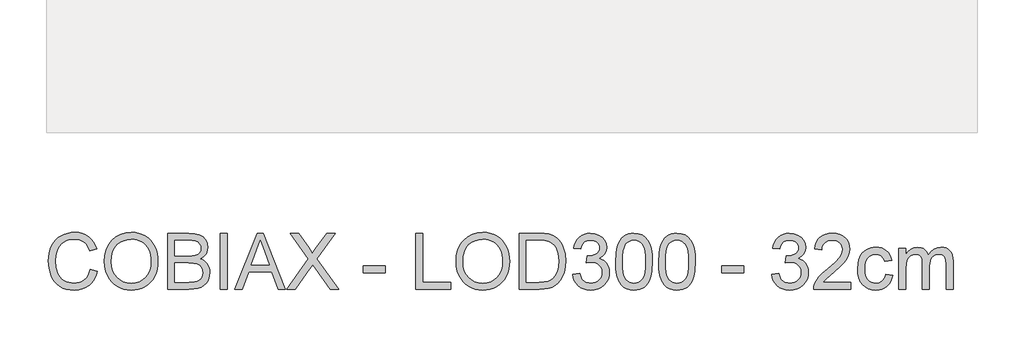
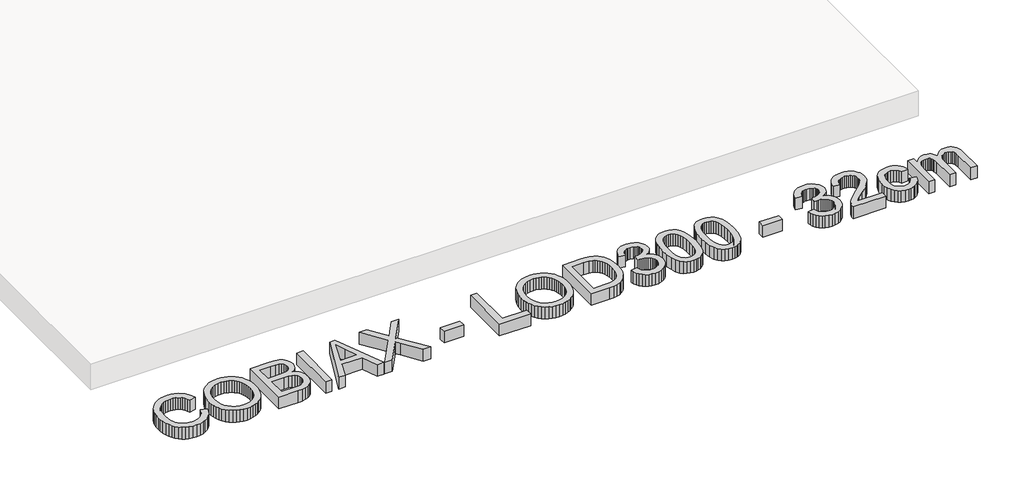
# One storey, part 4 of 18: 1 proxy.
"""IFC4 building model written with IfcOpenShell, lengths in millimetres."""

from ifc_helpers import new_model, si_unit, origin, origin_with_axes, place, context, project, spatial, polyline, outline, extrude, element, save

model = new_model("IFC4")

# Units and contexts
model_context = context("Model", 3, world=origin())
ifc_project = project(units=[si_unit("LENGTHUNIT", "METRE", prefix="MILLI")], contexts=[model_context])

# Site, building, storey
site = spatial("IfcSite", under=ifc_project)
building = spatial("IfcBuilding", under=site)
storey = spatial("IfcBuildingStorey", under=building, Name="COBIAX Slabs", Elevation=0.0)

# Proxy
placement = place(None, origin())
element("IfcBuildingElementProxy", 1, Name="600mm Arial", ObjectType="600mm Arial", at=placement, inside=storey, context=model_context, shape_type="SweptSolid", body=[
    extrude(outline(polyline([(-20201.7846047, -22740.3003464), (-20126.4423721, -22759.7245158), (-20141.35079, -22806.5788864), (-20161.2072206, -22847.5195539), (-20186.0116642, -22882.5465184), (-20215.7641205, -22911.6597798), (-20249.7932051, -22934.5466384), (-20287.4275332, -22950.8943946), (-20328.6671048, -22960.7030482), (-20373.5119201, -22963.9725995), (-20419.4557827, -22961.4985931), (-20460.902288, -22954.0765738), (-20497.8514359, -22941.7065417), (-20530.3032264, -22924.3884968), (-20558.7037164, -22902.3799564), (-20583.4989629, -22875.938438), (-20604.6889658, -22845.0639416), (-20622.2737252, -22809.7564671), (-20636.0830956, -22771.5427249), (-20645.9469316, -22731.9494251), (-20651.8652332, -22690.9765679), (-20653.8380004, -22648.6241532), (-20651.6077158, -22603.1815298), (-20644.916862, -22560.7371446), (-20633.765439, -22521.2909976), (-20618.1534469, -22484.843089), (-20598.4303734, -22451.9958253), (-20574.9457065, -22423.3516135), (-20547.6994462, -22398.9104534), (-20516.6915926, -22378.6723452), (-20482.9752077, -22362.8028356), (-20447.6033539, -22351.4674716), (-20410.5760311, -22344.6662532), (-20371.8932393, -22342.3991804), (-20328.8004621, -22345.3330393), (-20289.2853373, -22354.1346161), (-20253.3478649, -22368.8039106), (-20220.9880449, -22389.340923), (-20192.7393062, -22415.2030273), (-20169.1350776, -22445.8475975), (-20150.1753593, -22481.2746336), (-20135.8601512, -22521.4841357), (-20211.2023838, -22539.436777), (-20223.0665781, -22509.8084809), (-20237.3220054, -22484.4936011), (-20253.9686657, -22463.4921377), (-20273.006559, -22446.8040907), (-20294.5460498, -22434.0891692), (-20318.6975028, -22425.0070824), (-20345.4609179, -22419.5578304), (-20374.8362952, -22417.741413), (-20408.6354535, -22419.755567), (-20439.5467382, -22425.7980287), (-20467.5701492, -22435.8687984), (-20492.7056865, -22449.9678758), (-20514.6360519, -22467.4606647), (-20533.0439473, -22487.7125685), (-20547.9293725, -22510.7235873), (-20559.2923276, -22536.4937211), (-20573.6949077, -22591.6392322), (-20578.4957678, -22648.4770004), (-20572.8119909, -22718.0802739), (-20565.7072699, -22749.3502435), (-20555.7606605, -22778.2657683), (-20542.8112142, -22804.2520328), (-20526.6979829, -22826.7342212), (-20507.4209663, -22845.7123336), (-20484.9801646, -22861.18637), (-20460.4654281, -22873.1931186), (-20434.9666074, -22881.7693677), (-20408.4837022, -22886.9151171), (-20381.0167128, -22888.6303669), (-20348.2614196, -22886.2943162), (-20318.1272857, -22879.2861642), (-20290.614311, -22867.6059108), (-20265.7224955, -22851.2535562), (-20244.0404504, -22830.3026765), (-20226.1567869, -22804.8268484), (-20212.071505, -22774.8260717), (-20201.7846047, -22740.3003464)])), origin_with_axes(), (0.0, 0.0, 1.0), 150.0),
    extrude(outline(polyline([(-20051.1001395, -22661.1321411), (-20046.0785503, -22590.4344186), (-20031.0137825, -22527.8484942), (-20005.9058364, -22473.3743678), (-19989.5856714, -22449.1792288), (-19970.7547117, -22427.0120393), (-19927.6665331, -22389.9939136), (-19878.7474247, -22363.5523952), (-19823.9973868, -22347.6874841), (-19763.4164193, -22342.3991804), (-19722.8666263, -22344.8823839), (-19684.3585785, -22352.3319943), (-19647.8922757, -22364.7480116), (-19613.467718, -22382.1304359), (-19582.0505956, -22403.9550353), (-19554.6065988, -22429.6975779), (-19531.1357275, -22459.3580637), (-19511.6379818, -22492.9364929), (-19496.3156967, -22529.6695101), (-19485.3712073, -22568.7937603), (-19478.8045137, -22610.3092434), (-19476.6156158, -22654.2159595), (-19478.9194768, -22698.7020898), (-19485.8310598, -22740.778593), (-19497.3503648, -22780.4454691), (-19513.4773917, -22817.7027182), (-19533.8304631, -22851.5662559), (-19558.0279014, -22881.0519978), (-19586.0697064, -22906.1599439), (-19617.9558784, -22926.8900944), (-19652.4310198, -22943.1136904), (-19688.2397335, -22954.7019732), (-19725.3820195, -22961.6549429), (-19763.8578777, -22963.9725995), (-19805.1158434, -22961.4112211), (-19844.129729, -22953.7270859), (-19880.8995344, -22940.920194), (-19915.4252597, -22922.9905452), (-19946.8055939, -22900.632517), (-19974.1392261, -22874.5404865), (-19997.4261564, -22844.7144537), (-20016.6663847, -22811.1544187), (-20031.7311524, -22775.2077492), (-20042.4917008, -22738.2218131), (-20048.9480298, -22700.1966104), (-20051.1001395, -22661.1321411)]), holes=[polyline([(-19975.7579069, -22661.867905), (-19971.9917149, -22711.8170829), (-19960.6931392, -22756.1560604), (-19941.8621795, -22794.8848374), (-19915.4988361, -22828.0034141), (-19883.4517158, -22854.5277059), (-19847.5694257, -22873.4736287), (-19807.8519657, -22884.8411823), (-19764.299336, -22888.6303669), (-19720.0017453, -22884.8043941), (-19679.8152359, -22873.3264759), (-19643.7398077, -22854.1966121), (-19611.7754608, -22827.4148029), (-19585.6052554, -22793.5972505), (-19566.9122515, -22753.3601572), (-19555.6964492, -22706.7035232), (-19551.9578484, -22653.6273484), (-19553.5581351, -22619.1476084), (-19558.3589951, -22586.9303426), (-19566.3604285, -22556.9755512), (-19577.5624353, -22529.283234), (-19591.8408552, -22504.2166745), (-19609.0715282, -22482.1391563), (-19629.2544541, -22463.0506793), (-19652.3896331, -22446.9512435), (-19677.7596952, -22434.1719427), (-19704.6472705, -22425.0438706), (-19733.0523591, -22419.5670274), (-19762.9749609, -22417.741413), (-19805.0146759, -22421.2592846), (-19844.0193644, -22431.8128994), (-19879.9890265, -22449.4022573), (-19912.9236621, -22474.0273583), (-19940.4136442, -22506.874622), (-19960.0493457, -22549.1304676), (-19971.8307666, -22600.7948953), (-19975.7579069, -22661.867905)])]), origin_with_axes(), (0.0, 0.0, 1.0), 150.0),
    extrude(outline(polyline([(-19373.020046, -22954.5548204), (-19373.020046, -22351.8169595), (-19143.0202226, -22351.8169595), (-19079.7629135, -22356.2499375), (-19030.3747557, -22369.5488717), (-19010.2975958, -22379.6058457), (-18992.5196984, -22392.0448557), (-18977.0410634, -22406.8659016), (-18963.8616909, -22424.0689834), (-18945.8170791, -22461.7400997), (-18939.8022085, -22501.1770495), (-18944.8605859, -22537.4686084), (-18960.0357182, -22571.5896634), (-18985.43797, -22601.4432873), (-19021.1777058, -22624.9325527), (-18998.438, -22634.6262433), (-18978.4850002, -22647.2262016), (-18961.3187066, -22662.7324277), (-18946.9391192, -22681.1449216), (-18935.576164, -22701.9026632), (-18927.4597675, -22724.4446324), (-18922.5899296, -22748.7708294), (-18920.9666503, -22774.881254), (-18925.3996283, -22816.9117719), (-18938.6985625, -22855.8888693), (-18958.5457961, -22889.0350371), (-18982.6236727, -22913.5727661), (-19012.1094146, -22931.3414665), (-19048.1802442, -22944.1805481), (-19092.013384, -22951.9612523), (-19144.7860562, -22954.5548204), (-19373.020046, -22954.5548204)]), holes=[polyline([(-19297.6778134, -22596.6792155), (-19160.0899472, -22596.6792155), (-19111.9709822, -22595.0605347), (-19079.7445194, -22590.2044924), (-19051.6199409, -22579.0392738), (-19031.4048253, -22562.3190371), (-19019.2095371, -22540.3012997), (-19015.1444411, -22513.243579), (-19018.9336256, -22486.9768045), (-19030.3011793, -22464.0945444), (-19048.7320672, -22446.2338736), (-19073.7112547, -22435.0318668), (-19112.0445586, -22429.1273608), (-19170.5377958, -22427.1591921), (-19297.6778134, -22427.1591921), (-19297.6778134, -22596.6792155)]), polyline([(-19297.6778134, -22879.2125878), (-19143.1673754, -22879.2125878), (-19087.2493121, -22876.2695318), (-19061.2952374, -22869.7396264), (-19039.9396875, -22859.8619948), (-19022.5756574, -22845.7169321), (-19008.5961416, -22826.3847333), (-18999.3806976, -22802.729921), (-18996.3088829, -22775.617018), (-18999.9141265, -22744.1263192), (-19010.7298571, -22717.0502043), (-19029.6205976, -22695.8785955), (-19057.4508705, -22682.1014148), (-19096.8694263, -22674.5414398), (-19150.5250153, -22672.0214481), (-19297.6778134, -22672.0214481), (-19297.6778134, -22879.2125878)])]), origin_with_axes(), (0.0, 0.0, 1.0), 150.0),
    extrude(outline(polyline([(-18807.9533014, -22954.5548204), (-18807.9533014, -22351.8169595), (-18732.6110688, -22351.8169595), (-18732.6110688, -22954.5548204), (-18807.9533014, -22954.5548204)])), origin_with_axes(), (0.0, 0.0, 1.0), 150.0),
    extrude(outline(polyline([(-18652.1184882, -22954.5548204), (-18411.5236634, -22351.8169595), (-18347.3650434, -22351.8169595), (-18106.7702186, -22954.5548204), (-18186.3798823, -22954.5548204), (-18255.3945446, -22766.1992389), (-18503.641315, -22766.1992389), (-18572.5088245, -22954.5548204), (-18652.1184882, -22954.5548204)]), holes=[polyline([(-18475.9765889, -22690.8570063), (-18282.9121179, -22690.8570063), (-18337.2115004, -22542.6741386), (-18379.4443534, -22427.1591921), (-18416.9683169, -22529.7246924), (-18475.9765889, -22690.8570063)])]), origin_with_axes(), (0.0, 0.0, 1.0), 150.0),
    extrude(outline(polyline([(-18092.2020916, -22954.5548204), (-17859.8478234, -22626.1097751), (-18054.5309753, -22351.8169595), (-17964.1791572, -22351.8169595), (-17854.5503227, -22506.1802447), (-17828.3939128, -22545.2861008), (-17817.6149704, -22566.3657391), (-17774.3520477, -22505.1501751), (-17665.9004356, -22351.8169595), (-17574.2242424, -22351.8169595), (-17768.9073942, -22626.9926919), (-17536.5531261, -22954.5548204), (-17626.9049441, -22954.5548204), (-17781.7096876, -22736.1800681), (-17813.9361504, -22690.8570063), (-17849.3999748, -22740.594652), (-18000.5258984, -22954.5548204), (-18092.2020916, -22954.5548204)])), origin_with_axes(), (0.0, 0.0, 1.0), 150.0),
    extrude(outline(polyline([(-17272.8553119, -22775.617018), (-17272.8553119, -22700.2747853), (-17037.410835, -22700.2747853), (-17037.410835, -22775.617018), (-17272.8553119, -22775.617018)])), origin_with_axes(), (0.0, 0.0, 1.0), 150.0),
    extrude(outline(polyline([(-16707.7885673, -22954.5548204), (-16707.7885673, -22351.8169595), (-16632.4463347, -22351.8169595), (-16632.4463347, -22879.2125878), (-16331.0774043, -22879.2125878), (-16331.0774043, -22954.5548204), (-16707.7885673, -22954.5548204)])), origin_with_axes(), (0.0, 0.0, 1.0), 150.0),
    extrude(outline(polyline([(-16274.5707298, -22661.1321411), (-16269.5491406, -22590.4344186), (-16254.4843729, -22527.8484942), (-16229.3764267, -22473.3743678), (-16213.0562617, -22449.1792288), (-16194.2253021, -22427.0120393), (-16151.1371234, -22389.9939136), (-16102.2180151, -22363.5523952), (-16047.4679771, -22347.6874841), (-15986.8870096, -22342.3991804), (-15946.3372167, -22344.8823839), (-15907.8291688, -22352.3319943), (-15871.362866, -22364.7480116), (-15836.9383083, -22382.1304359), (-15805.5211859, -22403.9550353), (-15778.0771891, -22429.6975779), (-15754.6063178, -22459.3580637), (-15735.1085721, -22492.9364929), (-15719.786287, -22529.6695101), (-15708.8417976, -22568.7937603), (-15702.275104, -22610.3092434), (-15700.0862061, -22654.2159595), (-15702.3900671, -22698.7020898), (-15709.3016501, -22740.778593), (-15720.8209551, -22780.4454691), (-15736.947982, -22817.7027182), (-15757.3010534, -22851.5662559), (-15781.4984917, -22881.0519978), (-15809.5402967, -22906.1599439), (-15841.4264687, -22926.8900944), (-15875.9016102, -22943.1136904), (-15911.7103239, -22954.7019732), (-15948.8526098, -22961.6549429), (-15987.328468, -22963.9725995), (-16028.5864337, -22961.4112211), (-16067.6003193, -22953.7270859), (-16104.3701247, -22940.920194), (-16138.89585, -22922.9905452), (-16170.2761842, -22900.632517), (-16197.6098164, -22874.5404865), (-16220.8967467, -22844.7144537), (-16240.1369751, -22811.1544187), (-16255.2017428, -22775.2077492), (-16265.9622911, -22738.2218131), (-16272.4186201, -22700.1966104), (-16274.5707298, -22661.1321411)]), holes=[polyline([(-16199.2284972, -22661.867905), (-16195.4623053, -22711.8170829), (-16184.1637295, -22756.1560604), (-16165.3327699, -22794.8848374), (-16138.9694264, -22828.0034141), (-16106.9223061, -22854.5277059), (-16071.040016, -22873.4736287), (-16031.3225561, -22884.8411823), (-15987.7699264, -22888.6303669), (-15943.4723356, -22884.8043941), (-15903.2858262, -22873.3264759), (-15867.210398, -22854.1966121), (-15835.2460512, -22827.4148029), (-15809.0758457, -22793.5972505), (-15790.3828418, -22753.3601572), (-15779.1670395, -22706.7035232), (-15775.4284387, -22653.6273484), (-15777.0287254, -22619.1476084), (-15781.8295855, -22586.9303426), (-15789.8310189, -22556.9755512), (-15801.0330256, -22529.283234), (-15815.3114455, -22504.2166745), (-15832.5421185, -22482.1391563), (-15852.7250445, -22463.0506793), (-15875.8602234, -22446.9512435), (-15901.2302855, -22434.1719427), (-15928.1178608, -22425.0438706), (-15956.5229494, -22419.5670274), (-15986.4455512, -22417.741413), (-16028.4852662, -22421.2592846), (-16067.4899547, -22431.8128994), (-16103.4596168, -22449.4022573), (-16136.3942524, -22474.0273583), (-16163.8842345, -22506.874622), (-16183.519936, -22549.1304676), (-16195.3013569, -22600.7948953), (-16199.2284972, -22661.867905)])]), origin_with_axes(), (0.0, 0.0, 1.0), 150.0),
    extrude(outline(polyline([(-15596.4906363, -22954.5548204), (-15596.4906363, -22351.8169595), (-15388.5637326, -22351.8169595), (-15326.4284636, -22353.9874633), (-15280.9950372, -22360.4989746), (-15232.9496487, -22377.2376054), (-15192.4090528, -22403.6147444), (-15170.0694186, -22425.1726293), (-15150.7280227, -22449.5264174), (-15134.3848651, -22476.6761087), (-15121.0399457, -22506.6217031), (-15110.6748705, -22539.0872892), (-15103.2712454, -22573.7969554), (-15097.3483452, -22649.9485284), (-15101.358259, -22714.6405773), (-15113.3880002, -22771.570316), (-15131.7085236, -22820.0387689), (-15154.5907837, -22859.3469601), (-15180.9311345, -22890.3778063), (-15209.6259302, -22914.0142245), (-15242.5697628, -22931.5438016), (-15281.6572248, -22944.2541245), (-15326.9618925, -22951.9796464), (-15378.5573423, -22954.5548204), (-15596.4906363, -22954.5548204)]), holes=[polyline([(-15521.1484037, -22879.2125878), (-15387.8279686, -22879.2125878), (-15332.6824575, -22876.490261), (-15290.8542747, -22868.3232807), (-15259.2899995, -22855.1898935), (-15234.9362114, -22837.5683459), (-15208.7614075, -22804.9556071), (-15189.0981148, -22762.7411481), (-15176.7924621, -22710.7410281), (-15172.6905778, -22648.771306), (-15174.7001332, -22605.0301368), (-15180.7287994, -22566.6600447), (-15190.7765764, -22533.6610297), (-15204.8434642, -22506.0330919), (-15221.7890286, -22483.1508318), (-15240.4728355, -22464.38885), (-15260.8948847, -22449.7471466), (-15283.0551764, -22439.2257216), (-15326.3916754, -22430.1758245), (-15389.8881078, -22427.1591921), (-15521.1484037, -22427.1591921), (-15521.1484037, -22879.2125878)])]), origin_with_axes(), (0.0, 0.0, 1.0), 150.0),
    extrude(outline(polyline([(-15022.0061126, -22794.4525761), (-14946.66388, -22785.034797), (-14929.7964905, -22832.3812098), (-14918.4243384, -22850.2878659), (-14905.0932146, -22864.3501552), (-14889.4996165, -22874.9727478), (-14871.3400415, -22882.5603139), (-14850.6144896, -22887.1128536), (-14827.3229608, -22888.6303669), (-14800.0261167, -22886.5426365), (-14775.6723287, -22880.2794456), (-14754.2615965, -22869.840794), (-14735.7939204, -22855.2266817), (-14720.9222907, -22837.5315577), (-14710.2996981, -22817.849871), (-14703.9261425, -22796.1816215), (-14701.801624, -22772.5268092), (-14703.9077484, -22749.9986355), (-14710.2261217, -22729.5030099), (-14720.7567438, -22711.0399322), (-14735.4996148, -22694.6094026), (-14753.4890443, -22681.121929), (-14773.7593423, -22671.4880192), (-14796.3105086, -22665.7076734), (-14821.1425433, -22663.7808914), (-14844.9445083, -22665.8410306), (-14873.9703978, -22672.0214481), (-14865.5826883, -22596.6792155), (-14853.5161588, -22597.5621323), (-14808.377038, -22592.154267), (-14768.0203832, -22575.930671), (-14751.4105111, -22563.6618064), (-14739.5463167, -22548.4866741), (-14732.4278001, -22530.4052741), (-14730.0549612, -22509.4176062), (-14731.7748096, -22492.3800713), (-14736.9343546, -22476.8784438), (-14745.5335962, -22462.9127235), (-14757.5725345, -22450.4829106), (-14772.3246025, -22440.2787838), (-14789.0632333, -22432.9901217), (-14828.5001832, -22427.1591921), (-14849.1567572, -22428.6307201), (-14868.0107094, -22433.045304), (-14885.0620399, -22440.4029439), (-14900.3107486, -22450.7036398), (-14913.3797565, -22463.9473916), (-14923.8919845, -22480.1341994), (-14931.8474327, -22499.2640632), (-14937.2461009, -22521.3369829), (-15012.5883335, -22511.9192038), (-15003.6579981, -22475.9495417), (-14990.4050492, -22444.2657049), (-14972.8294869, -22416.8676933), (-14950.9313112, -22393.755507), (-14925.4003007, -22375.4073924), (-14896.9262343, -22362.3015964), (-14865.5091119, -22354.4381187), (-14831.1489335, -22351.8169595), (-14783.7841266, -22356.9857015), (-14740.2820807, -22372.4919276), (-14703.6042458, -22396.9560803), (-14676.7120719, -22428.9986021), (-14660.2125645, -22465.9155603), (-14654.7127286, -22505.0030223), (-14659.936653, -22541.4233398), (-14675.608426, -22574.459143), (-14701.5073184, -22602.6021156), (-14737.4126012, -22624.3439415), (-14712.304655, -22632.1982221), (-14690.2501294, -22643.4002289), (-14671.2490243, -22657.9499618), (-14655.3013398, -22675.8474209), (-14642.6829874, -22696.6511477), (-14633.6698785, -22719.9196839), (-14628.2620132, -22745.6530294), (-14626.4593914, -22773.8511844), (-14630.064635, -22812.0741237), (-14640.8803656, -22847.2804306), (-14658.9065834, -22879.4701052), (-14684.1432883, -22908.6431474), (-14714.889026, -22932.8497827), (-14749.4423424, -22950.1402365), (-14787.8032374, -22960.5145087), (-14829.9717111, -22963.9725995), (-14868.0842858, -22961.0203465), (-14902.8123462, -22952.1635874), (-14934.1558922, -22937.4023224), (-14962.1149238, -22916.7365513), (-14985.5582039, -22891.3802848), (-15003.3544955, -22862.5475334), (-15015.5037984, -22830.2382972), (-15022.0061126, -22794.4525761)])), origin_with_axes(), (0.0, 0.0, 1.0), 150.0),
    extrude(outline(polyline([(-14560.5349379, -22658.0419323), (-14554.9983138, -22561.5648791), (-14548.0775338, -22520.6518027), (-14538.3884418, -22484.6223598), (-14525.9724244, -22453.1822448), (-14510.8708685, -22426.037152), (-14493.0837741, -22403.1870816), (-14472.611141, -22384.6320335), (-14449.3839916, -22370.2754386), (-14423.3333478, -22360.020728), (-14394.4592097, -22353.8679016), (-14362.7615773, -22351.8169595), (-14316.3348695, -22356.6730018), (-14274.764204, -22371.2411289), (-14239.9993555, -22394.9511234), (-14213.9900984, -22427.2327685), (-14194.3451999, -22467.8101526), (-14178.6734269, -22516.4073642), (-14168.4095192, -22578.1195688), (-14164.9882167, -22658.0419323), (-14170.4696584, -22753.9671625), (-14177.3214605, -22794.7422832), (-14186.9139836, -22830.7257408), (-14199.2334319, -22862.1796514), (-14214.2660099, -22889.3661309), (-14232.0117177, -22912.2851792), (-14252.4705551, -22930.9367963), (-14275.7252957, -22945.3899602), (-14301.858713, -22955.7136487), (-14330.8708068, -22961.9078618), (-14362.7615773, -22963.9725995), (-14404.2586663, -22960.38575), (-14441.0468658, -22949.6252017), (-14473.1261758, -22931.6909544), (-14500.4965963, -22906.5830082), (-14526.7633707, -22861.1955671), (-14545.5253525, -22804.6429074), (-14556.7825415, -22736.9250291), (-14560.5349379, -22658.0419323)]), holes=[polyline([(-14485.1927053, -22657.8947795), (-14482.9854133, -22723.3915702), (-14476.3635374, -22776.4079642), (-14465.3270775, -22816.9439616), (-14449.8760337, -22844.9995622), (-14431.1876284, -22864.0880393), (-14410.4390838, -22877.7226657), (-14387.6304001, -22885.9034416), (-14362.7615773, -22888.6303669), (-14337.8927544, -22885.8942445), (-14315.0840707, -22877.6858775), (-14294.3355262, -22864.0052658), (-14275.6471208, -22844.8524094), (-14260.196077, -22816.7508235), (-14249.1596172, -22776.2240232), (-14242.5377412, -22723.2720086), (-14240.3304493, -22657.8947795), (-14242.4641648, -22594.1316327), (-14248.8653116, -22542.0487392), (-14259.5338894, -22501.6460991), (-14274.4698984, -22472.9237123), (-14292.8456041, -22452.9017347), (-14313.8332719, -22438.6003222), (-14337.4329019, -22430.0194746), (-14363.6444941, -22427.1591921), (-14388.3845582, -22429.6791838), (-14410.8069658, -22437.2391588), (-14430.9117169, -22449.8391171), (-14448.6988113, -22467.4790588), (-14464.6648899, -22498.7490284), (-14476.0692318, -22540.908305), (-14482.9118369, -22593.9568887), (-14485.1927053, -22657.8947795)])]), origin_with_axes(), (0.0, 0.0, 1.0), 150.0),
    extrude(outline(polyline([(-14099.0637631, -22658.0419323), (-14093.5271391, -22561.5648791), (-14086.6063591, -22520.6518027), (-14076.917267, -22484.6223598), (-14064.5012497, -22453.1822448), (-14049.3996938, -22426.037152), (-14031.6125993, -22403.1870816), (-14011.1399663, -22384.6320335), (-13987.9128168, -22370.2754386), (-13961.862173, -22360.020728), (-13932.9880349, -22353.8679016), (-13901.2904025, -22351.8169595), (-13854.8636947, -22356.6730018), (-13813.2930293, -22371.2411289), (-13778.5281807, -22394.9511234), (-13752.5189237, -22427.2327685), (-13732.8740251, -22467.8101526), (-13717.2022521, -22516.4073642), (-13706.9383445, -22578.1195688), (-13703.5170419, -22658.0419323), (-13708.9984836, -22753.9671625), (-13715.8502858, -22794.7422832), (-13725.4428088, -22830.7257408), (-13737.7622571, -22862.1796514), (-13752.7948352, -22889.3661309), (-13770.5405429, -22912.2851792), (-13790.9993804, -22930.9367963), (-13814.254121, -22945.3899602), (-13840.3875382, -22955.7136487), (-13869.3996321, -22961.9078618), (-13901.2904025, -22963.9725995), (-13942.7874916, -22960.38575), (-13979.5756911, -22949.6252017), (-14011.6550011, -22931.6909544), (-14039.0254215, -22906.5830082), (-14065.292196, -22861.1955671), (-14084.0541777, -22804.6429074), (-14095.3113668, -22736.9250291), (-14099.0637631, -22658.0419323)]), holes=[polyline([(-14023.7215305, -22657.8947795), (-14021.5142385, -22723.3915702), (-14014.8923626, -22776.4079642), (-14003.8559028, -22816.9439616), (-13988.404859, -22844.9995622), (-13969.7164536, -22864.0880393), (-13948.9679091, -22877.7226657), (-13926.1592254, -22885.9034416), (-13901.2904025, -22888.6303669), (-13876.4215796, -22885.8942445), (-13853.6128959, -22877.6858775), (-13832.8643514, -22864.0052658), (-13814.1759461, -22844.8524094), (-13798.7249023, -22816.7508235), (-13787.6884424, -22776.2240232), (-13781.0665665, -22723.2720086), (-13778.8592745, -22657.8947795), (-13780.9929901, -22594.1316327), (-13787.3941368, -22542.0487392), (-13798.0627147, -22501.6460991), (-13812.9987237, -22472.9237123), (-13831.3744293, -22452.9017347), (-13852.3620972, -22438.6003222), (-13875.9617271, -22430.0194746), (-13902.1733193, -22427.1591921), (-13926.9133835, -22429.6791838), (-13949.3357911, -22437.2391588), (-13969.4405421, -22449.8391171), (-13987.2276366, -22467.4790588), (-14003.1937152, -22498.7490284), (-14014.598057, -22540.908305), (-14021.4406621, -22593.9568887), (-14023.7215305, -22657.8947795)])]), origin_with_axes(), (0.0, 0.0, 1.0), 150.0),
    extrude(outline(polyline([(-13420.9836696, -22775.617018), (-13420.9836696, -22700.2747853), (-13185.5391927, -22700.2747853), (-13185.5391927, -22775.617018), (-13420.9836696, -22775.617018)])), origin_with_axes(), (0.0, 0.0, 1.0), 150.0),
    extrude(outline(polyline([(-12884.1702622, -22794.4525761), (-12808.8280296, -22785.034797), (-12791.9606402, -22832.3812098), (-12780.588488, -22850.2878659), (-12767.2573642, -22864.3501552), (-12751.6637661, -22874.9727478), (-12733.5041911, -22882.5603139), (-12712.7786392, -22887.1128536), (-12689.4871104, -22888.6303669), (-12662.1902664, -22886.5426365), (-12637.8364783, -22880.2794456), (-12616.4257462, -22869.840794), (-12597.95807, -22855.2266817), (-12583.0864403, -22837.5315577), (-12572.4638477, -22817.849871), (-12566.0902922, -22796.1816215), (-12563.9657736, -22772.5268092), (-12566.0718981, -22749.9986355), (-12572.3902713, -22729.5030099), (-12582.9208934, -22711.0399322), (-12597.6637644, -22694.6094026), (-12615.653194, -22681.121929), (-12635.9234919, -22671.4880192), (-12658.4746582, -22665.7076734), (-12683.3066929, -22663.7808914), (-12707.108658, -22665.8410306), (-12736.1345474, -22672.0214481), (-12727.7468379, -22596.6792155), (-12715.6803085, -22597.5621323), (-12670.5411877, -22592.154267), (-12630.1845328, -22575.930671), (-12613.5746607, -22563.6618064), (-12601.7104664, -22548.4866741), (-12594.5919497, -22530.4052741), (-12592.2191109, -22509.4176062), (-12593.9389592, -22492.3800713), (-12599.0985042, -22476.8784438), (-12607.6977458, -22462.9127235), (-12619.7366841, -22450.4829106), (-12634.4887521, -22440.2787838), (-12651.2273829, -22432.9901217), (-12690.6643328, -22427.1591921), (-12711.3209068, -22428.6307201), (-12730.1748591, -22433.045304), (-12747.2261895, -22440.4029439), (-12762.4748982, -22450.7036398), (-12775.5439061, -22463.9473916), (-12786.0561341, -22480.1341994), (-12794.0115823, -22499.2640632), (-12799.4102506, -22521.3369829), (-12874.7524832, -22511.9192038), (-12865.8221477, -22475.9495417), (-12852.5691989, -22444.2657049), (-12834.9936365, -22416.8676933), (-12813.0954608, -22393.755507), (-12787.5644503, -22375.4073924), (-12759.0903839, -22362.3015964), (-12727.6732615, -22354.4381187), (-12693.3130832, -22351.8169595), (-12645.9482763, -22356.9857015), (-12602.4462303, -22372.4919276), (-12565.7683954, -22396.9560803), (-12538.8762216, -22428.9986021), (-12522.3767141, -22465.9155603), (-12516.8768783, -22505.0030223), (-12522.1008026, -22541.4233398), (-12537.7725756, -22574.459143), (-12563.6714681, -22602.6021156), (-12599.5767508, -22624.3439415), (-12574.4688046, -22632.1982221), (-12552.414279, -22643.4002289), (-12533.4131739, -22657.9499618), (-12517.4654895, -22675.8474209), (-12504.847137, -22696.6511477), (-12495.8340281, -22719.9196839), (-12490.4261628, -22745.6530294), (-12488.623541, -22773.8511844), (-12492.2287846, -22812.0741237), (-12503.0445152, -22847.2804306), (-12521.070733, -22879.4701052), (-12546.3074379, -22908.6431474), (-12577.0531756, -22932.8497827), (-12611.606492, -22950.1402365), (-12649.9673871, -22960.5145087), (-12692.1358608, -22963.9725995), (-12730.2484355, -22961.0203465), (-12764.9764958, -22952.1635874), (-12796.3200418, -22937.4023224), (-12824.2790734, -22916.7365513), (-12847.7223536, -22891.3802848), (-12865.5186451, -22862.5475334), (-12877.667948, -22830.2382972), (-12884.1702622, -22794.4525761)])), origin_with_axes(), (0.0, 0.0, 1.0), 150.0),
    extrude(outline(polyline([(-12036.5701454, -22879.2125878), (-12036.5701454, -22954.5548204), (-12432.1168666, -22954.5548204), (-12430.4613976, -22928.0305286), (-12424.0234627, -22902.6098827), (-12405.4454219, -22862.0141045), (-12378.2589425, -22822.6323369), (-12338.9323572, -22781.4111594), (-12283.9339989, -22735.2971513), (-12202.632078, -22663.0819156), (-12153.8509254, -22609.7758145), (-12139.6230893, -22587.9972004), (-12129.4603491, -22566.5128919), (-12123.3627051, -22545.322889), (-12121.3301571, -22524.4271916), (-12123.247742, -22504.7684975), (-12129.0004967, -22486.700893), (-12138.5884211, -22470.2243782), (-12152.0115154, -22455.338953), (-12168.5248185, -22443.0103076), (-12187.3833693, -22434.2041323), (-12208.5871678, -22428.9204272), (-12232.136214, -22427.1591921), (-12256.945256, -22428.8790404), (-12279.1331389, -22434.0385854), (-12298.6998625, -22442.6378271), (-12315.6454269, -22454.6767654), (-12329.3536297, -22469.7507301), (-12339.2082687, -22487.4550511), (-12345.2093437, -22507.7897284), (-12347.3568549, -22530.754762), (-12422.6990875, -22521.3369829), (-12416.2197659, -22482.4426589), (-12404.4337464, -22448.4595596), (-12387.3410292, -22419.387685), (-12364.9416143, -22395.2270349), (-12337.7505363, -22376.2351269), (-12306.2828301, -22362.6694784), (-12270.5384958, -22354.5300892), (-12230.5175332, -22351.8169595), (-12190.1378857, -22354.8335919), (-12154.2004133, -22363.8834889), (-12122.705116, -22378.9666508), (-12095.6519938, -22400.0830773), (-12073.9239634, -22425.66927), (-12058.4039418, -22454.1617306), (-12049.0919288, -22485.5604589), (-12045.9879244, -22519.8654549), (-12049.3356506, -22555.8994963), (-12059.3788291, -22591.3081384), (-12077.2027117, -22627.3237857), (-12103.8925505, -22665.178843), (-12146.4381032, -22710.3731461), (-12211.8291279, -22768.4065308), (-12298.5021259, -22840.8792839), (-12332.4944223, -22879.2125878), (-12036.5701454, -22879.2125878)])), origin_with_axes(), (0.0, 0.0, 1.0), 150.0),
    extrude(outline(polyline([(-11659.8589823, -22794.4525761), (-11584.5167497, -22803.8703552), (-11592.7113211, -22839.4215515), (-11605.5228116, -22870.8800606), (-11622.9512211, -22898.2458825), (-11644.9965497, -22921.5190172), (-11670.7298953, -22940.0924595), (-11699.2223558, -22953.3592039), (-11730.4739313, -22961.3192506), (-11764.4846217, -22963.9725995), (-11806.7404674, -22960.2707869), (-11844.6277144, -22949.1653492), (-11878.1463627, -22930.6562863), (-11907.2964123, -22904.7435983), (-11930.8914437, -22871.9147287), (-11947.7450376, -22832.6571213), (-11957.857194, -22786.970776), (-11961.2279127, -22734.8556929), (-11955.4705595, -22667.8091993), (-11948.273868, -22637.6382771), (-11938.1984999, -22609.7022381), (-11925.1754772, -22584.5621023), (-11909.1358222, -22562.7788896), (-11890.0795349, -22544.3526002), (-11868.0066152, -22529.283234), (-11843.914943, -22517.5661924), (-11818.8023983, -22509.196877), (-11792.6689811, -22504.1752878), (-11765.5146913, -22502.5014247), (-11732.0880135, -22504.8006872), (-11701.8527121, -22511.6984746), (-11674.8087869, -22523.194787), (-11650.956238, -22539.2896243), (-11630.6997357, -22559.6151045), (-11614.44395, -22583.8033457), (-11602.188881, -22611.8543478), (-11593.9345288, -22643.7681109), (-11669.2767614, -22653.18589), (-11682.9435775, -22620.3156337), (-11704.2255509, -22596.7527919), (-11731.9454593, -22582.570941), (-11764.9260801, -22577.8436573), (-11790.5260685, -22580.170511), (-11813.6152622, -22587.1510718), (-11834.1936613, -22598.7853399), (-11852.2612658, -22615.0733153), (-11866.9719471, -22636.3920769), (-11877.4795765, -22663.1187038), (-11883.7841542, -22695.2531961), (-11885.8856801, -22732.7955537), (-11883.8301395, -22770.9035299), (-11877.6635175, -22803.4105027), (-11867.3858143, -22830.3164721), (-11852.9970298, -22851.6214382), (-11835.2881102, -22867.8128445), (-11815.050002, -22879.3781347), (-11792.282705, -22886.3173088), (-11766.9862193, -22888.6303669), (-11727.9723337, -22882.8546195), (-11711.1003457, -22875.6349354), (-11695.9849942, -22865.5273776), (-11683.0493436, -22852.4215815), (-11672.716458, -22836.2071826), (-11664.9863376, -22816.8841808), (-11659.8589823, -22794.4525761)])), origin_with_axes(), (0.0, 0.0, 1.0), 150.0),
    extrude(outline(polyline([(-11518.5922962, -22954.5548204), (-11518.5922962, -22511.9192038), (-11443.2500635, -22511.9192038), (-11443.2500635, -22584.7598389), (-11420.5885326, -22551.3009714), (-11391.4522786, -22525.0893792), (-11356.8345829, -22508.1484134), (-11317.7287268, -22502.5014247), (-11275.8269675, -22508.258778), (-11257.9938878, -22515.4554695), (-11242.2393414, -22525.5308376), (-11217.1497893, -22553.1771696), (-11200.7422523, -22590.0573396), (-11173.2798614, -22551.7516268), (-11141.9547095, -22524.3904034), (-11106.7667967, -22507.9736694), (-11067.7161229, -22502.5014247), (-11037.5543978, -22504.7776946), (-11011.0806897, -22511.6065041), (-10988.2949986, -22522.9878533), (-10969.1973246, -22538.9217423), (-10954.1003672, -22559.5921119), (-10943.3168262, -22585.1829031), (-10936.8467016, -22615.6941161), (-10934.6899934, -22651.1257508), (-10934.6899934, -22954.5548204), (-11010.032226, -22954.5548204), (-11010.032226, -22683.4993664), (-11011.7796655, -22645.9202206), (-11017.0219839, -22620.5915452), (-11026.8444332, -22603.2459091), (-11042.3322652, -22589.6158812), (-11062.2530752, -22580.7867133), (-11085.3744586, -22577.8436573), (-11106.7254099, -22579.7290526), (-11126.190966, -22585.3852382), (-11143.7711268, -22594.8122144), (-11159.4658925, -22608.0099809), (-11172.373952, -22625.3648141), (-11181.5939945, -22647.2629898), (-11187.12602, -22673.7045082), (-11188.9700285, -22704.6893693), (-11188.9700285, -22954.5548204), (-11264.3122611, -22954.5548204), (-11264.3122611, -22675.1116569), (-11268.6716627, -22632.5109218), (-11274.1209148, -22615.7906851), (-11281.7498677, -22602.123869), (-11291.862024, -22591.5012764), (-11304.7608865, -22583.9137103), (-11320.446455, -22579.3611706), (-11338.9187297, -22577.8436573), (-11367.9446191, -22581.8903593), (-11394.6896402, -22594.0304651), (-11416.7625599, -22613.9696693), (-11431.7721453, -22641.4136661), (-11440.380584, -22679.4894526), (-11443.2500635, -22731.3240257), (-11443.2500635, -22954.5548204), (-11518.5922962, -22954.5548204)])), origin_with_axes(), (0.0, 0.0, 1.0), 150.0),
])

save(model, "model.ifc")
